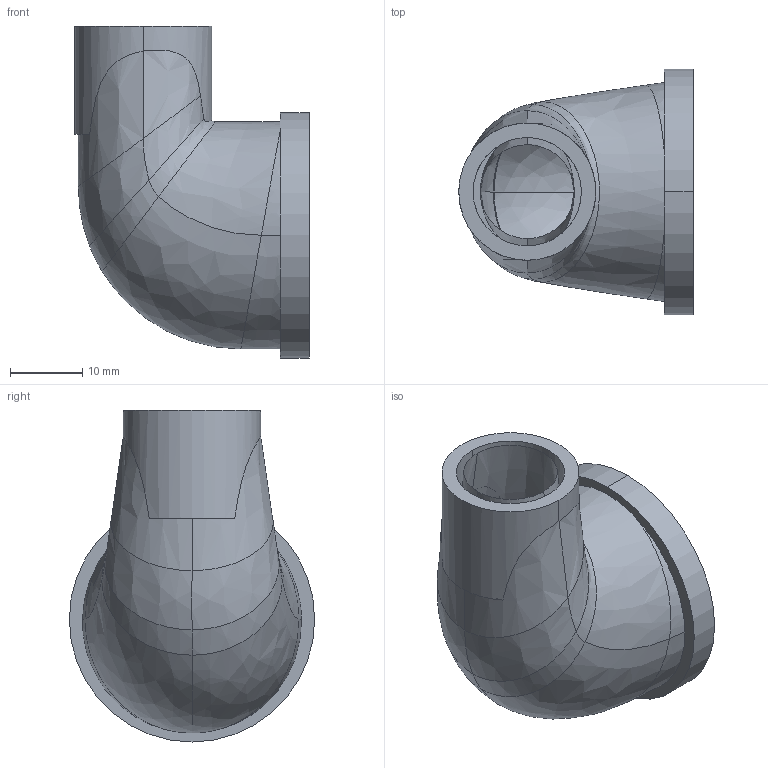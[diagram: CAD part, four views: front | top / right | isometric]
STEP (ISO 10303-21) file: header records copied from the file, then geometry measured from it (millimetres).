
FILE_DESCRIPTION (( 'STEP AP203' ), '1' );
FILE_NAME ('4090g-15x3-4.STEP', '2024-01-27T00:38:39', ( '' ), ( '' ), 'SwSTEP 2.0', 'SolidWorks 2018', '' );
FILE_SCHEMA (( 'CONFIG_CONTROL_DESIGN' ));
Length unit declared in the file: millimetre
Products named in the file (1): 4090g-15x3-4
Bounding box: 32.5 x 34 x 46 mm (x, y, z)
Surface area: 10965.1 mm2 (no closed solid volume)
Topology: 0 solids, 2 shells, 95 faces, 238 edges, 146 vertices
Faces by surface type: bspline 60, cylinder 24, plane 9, cone 2
Entity records: 9410 total; most frequent: CARTESIAN_POINT 7636, ORIENTED_EDGE 470, EDGE_CURVE 238, B_SPLINE_CURVE_WITH_KNOTS 180, VERTEX_POINT 146, DIRECTION 140, EDGE_LOOP 98, FACE_OUTER_BOUND 95
